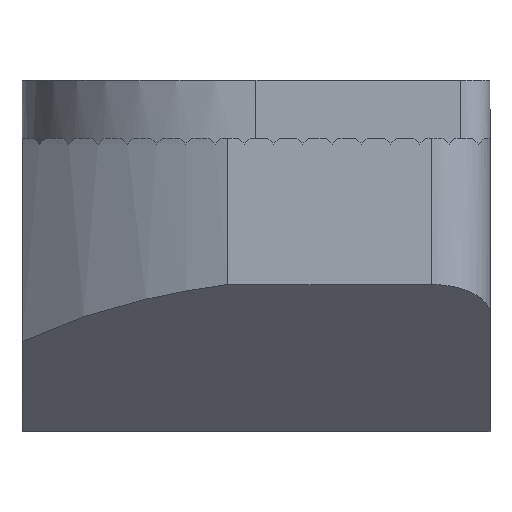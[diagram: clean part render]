
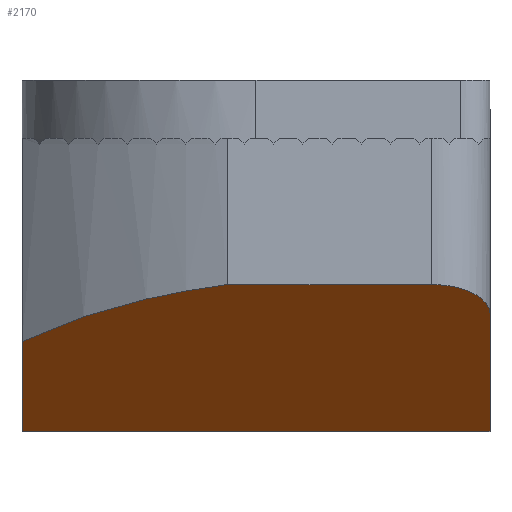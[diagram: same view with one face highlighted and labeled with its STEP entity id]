
A CAD part, top view. The second image highlights one B-rep face of the part: STEP entity #2170.
In plain terms, the highlighted planar face has unit normal (0, -0.894, 0.447).
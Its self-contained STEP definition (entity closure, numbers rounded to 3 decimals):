
#64 = DIRECTION ( 'NONE',  ( 0., 0.447, 0.894 ) ) ;
#233 = CARTESIAN_POINT ( 'NONE',  ( -0.484, -2.5, 7.75 ) ) ;
#234 = VERTEX_POINT ( 'NONE', #2088 ) ;
#391 = VECTOR ( 'NONE', #3580, 1000. ) ;
#406 = EDGE_CURVE ( 'NONE', #683, #234, #2954, .T. ) ;
#420 = EDGE_LOOP ( 'NONE', ( #1604, #1273, #1510, #2205, #3188, #2751 ) ) ;
#429 = VERTEX_POINT ( 'NONE', #1682 ) ;
#449 = LINE ( 'NONE', #2329, #391 ) ;
#474 = CARTESIAN_POINT ( 'NONE',  ( 4., -2.707, 7.336 ) ) ;
#586 = CARTESIAN_POINT ( 'NONE',  ( 4., -3., 6.75 ) ) ;
#683 = VERTEX_POINT ( 'NONE', #3614 ) ;
#736 = CARTESIAN_POINT ( 'NONE',  ( 4., -5., 2.75 ) ) ;
#866 = EDGE_CURVE ( 'NONE', #429, #1637, #1796, .T. ) ;
#1273 = ORIENTED_EDGE ( 'NONE', *, *, #2923, .T. ) ;
#1282 = CARTESIAN_POINT ( 'NONE',  ( -4., -5., 2.75 ) ) ;
#1386 =( BOUNDED_CURVE ( )  B_SPLINE_CURVE ( 3, ( #1783, #474, #1487, #3683 ),
 .UNSPECIFIED., .F., .T. ) 
 B_SPLINE_CURVE_WITH_KNOTS ( ( 4, 4 ),
 ( 4.712, 6.283 ),
 .UNSPECIFIED. ) 
 CURVE ( )  GEOMETRIC_REPRESENTATION_ITEM ( )  RATIONAL_B_SPLINE_CURVE ( ( 1., 0.805, 0.805, 1. ) ) 
 REPRESENTATION_ITEM ( '' )  );
#1487 = CARTESIAN_POINT ( 'NONE',  ( 3.586, -2.5, 7.75 ) ) ;
#1510 = ORIENTED_EDGE ( 'NONE', *, *, #406, .F. ) ;
#1604 = ORIENTED_EDGE ( 'NONE', *, *, #2995, .T. ) ;
#1637 = VERTEX_POINT ( 'NONE', #3743 ) ;
#1682 = CARTESIAN_POINT ( 'NONE',  ( -4., -5., 2.75 ) ) ;
#1700 = PLANE ( 'NONE',  #1751 ) ;
#1751 = AXIS2_PLACEMENT_3D ( 'NONE', #3587, #2018, #64 ) ;
#1783 = CARTESIAN_POINT ( 'NONE',  ( 4., -3., 6.75 ) ) ;
#1796 = LINE ( 'NONE', #2922, #1799 ) ;
#1799 = VECTOR ( 'NONE', #2618, 1000. ) ;
#1857 = CARTESIAN_POINT ( 'NONE',  ( -4., -3.47, 5.809 ) ) ;
#1916 =( BOUNDED_CURVE ( )  B_SPLINE_CURVE ( 3, ( #1857, #3107, #2184, #233 ),
 .UNSPECIFIED., .F., .T. ) 
 B_SPLINE_CURVE_WITH_KNOTS ( ( 4, 4 ),
 ( 5.525, 6.033 ),
 .UNSPECIFIED. ) 
 CURVE ( )  GEOMETRIC_REPRESENTATION_ITEM ( )  RATIONAL_B_SPLINE_CURVE ( ( 1., 0.979, 0.979, 1. ) ) 
 REPRESENTATION_ITEM ( '' )  );
#2018 = DIRECTION ( 'NONE',  ( 0., 0.894, -0.447 ) ) ;
#2062 = DIRECTION ( 'NONE',  ( 1., 0., 0. ) ) ;
#2088 = CARTESIAN_POINT ( 'NONE',  ( 3., -2.5, 7.75 ) ) ;
#2170 = ADVANCED_FACE ( 'NONE', ( #2569 ), #1700, .F. ) ;
#2184 = CARTESIAN_POINT ( 'NONE',  ( -1.809, -2.67, 7.411 ) ) ;
#2205 = ORIENTED_EDGE ( 'NONE', *, *, #3656, .F. ) ;
#2329 = CARTESIAN_POINT ( 'NONE',  ( 4., -2.5, 7.75 ) ) ;
#2569 = FACE_OUTER_BOUND ( 'NONE', #420, .T. ) ;
#2618 = DIRECTION ( 'NONE',  ( 0., 0.447, 0.894 ) ) ;
#2683 = CARTESIAN_POINT ( 'NONE',  ( -4., -2.5, 7.75 ) ) ;
#2751 = ORIENTED_EDGE ( 'NONE', *, *, #3274, .T. ) ;
#2872 = VECTOR ( 'NONE', #2062, 1000. ) ;
#2922 = CARTESIAN_POINT ( 'NONE',  ( -4., -2.5, 7.75 ) ) ;
#2923 = EDGE_CURVE ( 'NONE', #3218, #234, #1386, .T. ) ;
#2954 = LINE ( 'NONE', #2683, #2872 ) ;
#2995 = EDGE_CURVE ( 'NONE', #3469, #3218, #449, .T. ) ;
#3107 = CARTESIAN_POINT ( 'NONE',  ( -3.007, -3., 6.75 ) ) ;
#3188 = ORIENTED_EDGE ( 'NONE', *, *, #866, .F. ) ;
#3218 = VERTEX_POINT ( 'NONE', #586 ) ;
#3274 = EDGE_CURVE ( 'NONE', #429, #3469, #3747, .T. ) ;
#3469 = VERTEX_POINT ( 'NONE', #736 ) ;
#3580 = DIRECTION ( 'NONE',  ( 0., 0.447, 0.894 ) ) ;
#3587 = CARTESIAN_POINT ( 'NONE',  ( -4., -2.5, 7.75 ) ) ;
#3614 = CARTESIAN_POINT ( 'NONE',  ( -0.484, -2.5, 7.75 ) ) ;
#3656 = EDGE_CURVE ( 'NONE', #1637, #683, #1916, .T. ) ;
#3683 = CARTESIAN_POINT ( 'NONE',  ( 3., -2.5, 7.75 ) ) ;
#3704 = VECTOR ( 'NONE', #4103, 1000. ) ;
#3743 = CARTESIAN_POINT ( 'NONE',  ( -4., -3.47, 5.809 ) ) ;
#3747 = LINE ( 'NONE', #1282, #3704 ) ;
#4103 = DIRECTION ( 'NONE',  ( 1., 0., 0. ) ) ;
